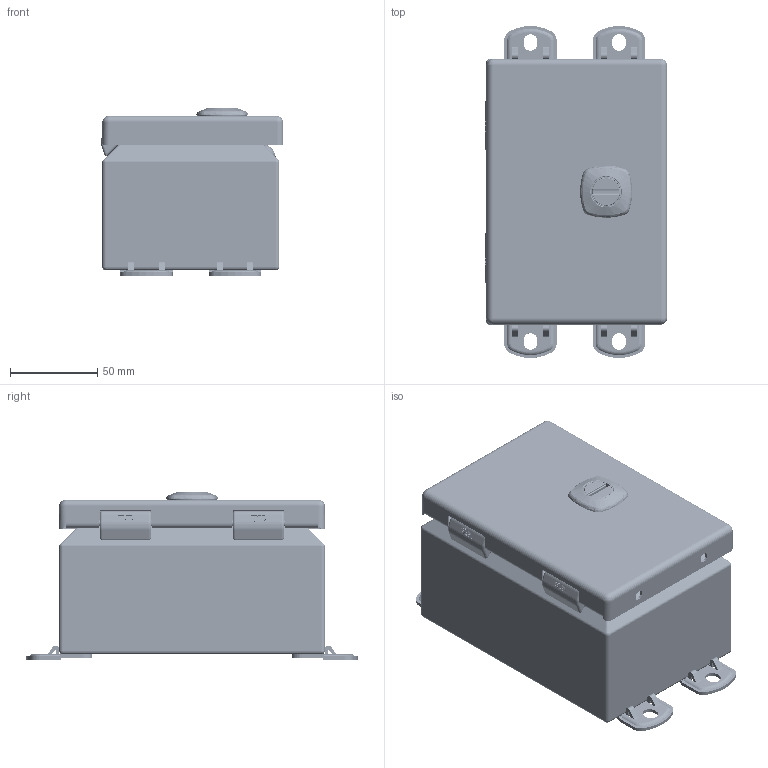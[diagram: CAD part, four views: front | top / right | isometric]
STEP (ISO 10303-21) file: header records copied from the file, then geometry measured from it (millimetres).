
FILE_DESCRIPTION(/* description */ ('5412ESM 6" x 4" x 3" Assembly'),/* implementation_level */ '2;1');
FILE_NAME(/* name */ 'C:\Vault_Workspace\Inventor_Dwg\BoxCad\Result\5412ESM060403\e-mail\3D\5412ESM060403.stp',/* time_stamp */ '2023-02-12T23:19:41-05:00',/* author */ ('BoxCad'),/* organization */ (''),/* preprocessor_version */ 'ST-DEVELOPER v18.1',/* originating_system */ 'Autodesk Inventor 2020',/* authorisation */ '');
FILE_SCHEMA (('AUTOMOTIVE_DESIGN { 1 0 10303 214 3 1 1 }'));
Products named in the file (38): 5412ESM060403; 5412ESM060403B; 5412ESM060403B-P; 5412ESM060403MF-P; STK-S-00100; STK-Q-00200; STK-Q-00200-P; STK-Q-00200-N; STK-Q-08112; STK-Q-08112-A; STK-Q-08112-B; STK-PEM-FH-M6-20ZI; 880SP0604G; 880SP0604G-P; STK-Q-07200; 5412ESM060403AK; 5412ESM060403C; 5412ESM060403C-P; 5412ESM060403G; STK-A-33033-1; STK-A-33033-2; STK-Q-33033-B; STK-Q-33033-S; STK-Q-33033-G; STK-P-02400S; STANDOFF_M6 x 10mm; STK-K-12500-1; STK-Q-78111; STK-Q-78120; STK-Q-78145; STK-Q-03200; STK-Q-78141; STK-Q-90390; STK-Q-78160; STK-Q-08100-3; STK-Q-08100-4; STK-Q-08100-A; STK-Q-08100-B
Assembly tree (57 placements, depth 4):
  5412ESM060403
    5412ESM060403B
      5412ESM060403B-P
      STK-P-02400S
      5412ESM060403MF-P  x4
      STK-S-00100
      STANDOFF_M6 x 10mm
      STK-Q-00200
        STK-Q-00200-P
        STK-Q-00200-N
      STK-Q-08112
        STK-Q-08112-A
        STK-Q-08112-B
      STK-PEM-FH-M6-20ZI  x4
    STK-Q-07200  x8
    880SP0604G
      880SP0604G-P
    5412ESM060403AK
    5412ESM060403C
      5412ESM060403C-P
      5412ESM060403G
      STK-A-33033-1
        STK-Q-33033-B
        STK-Q-33033-S
        STK-Q-33033-G
      STK-A-33033-2
        STK-Q-33033-B
        STK-Q-33033-S
        STK-Q-33033-G
      STK-P-02400S
      STANDOFF_M6 x 10mm
      STK-K-12500-1
        STK-Q-78111
        STK-Q-78120
        STK-Q-78145
        STK-Q-03200
        STK-Q-78141
        STK-Q-90390
        STK-Q-78160
    STK-Q-08100-3
      STK-Q-08100-A
      STK-Q-08100-B
    STK-Q-08100-4
      STK-Q-08100-A
      STK-Q-08100-B
Bounding box: 104.42 x 190.4 x 95.87 mm (x, y, z)
Volume: 173324.1 mm3; surface area: 241731.5 mm2
Topology: 46 solids, 46 shells, 6051 faces, 15649 edges, 9571 vertices
Faces by surface type: plane 2950, cylinder 1333, bspline 1109, torus 385, sphere 163, cone 111
Full cylindrical faces by diameter (mm): 0.762 x2, 0.9 x2, 3 x2, 3.175 x2, 3.25 x2, 4.2 x2, 4.4 x6, 4.45 x2, 4.6 x5, 4.9 x24, 5 x4, 5.01 x32, 5.1 x21, 5.4 x1, 5.9 x12, 5.994 x4, 6 x10, 6.1 x2, 7.62 x2, 7.8 x1, 8.128 x4, 9.6 x1, 10 x3, 12.8 x1, 13 x1, 15.9 x1, 16 x1, 25 x2, 29 x2
Entity records: 121061 total; most frequent: CARTESIAN_POINT 44705, ORIENTED_EDGE 16264, DIRECTION 14607, EDGE_CURVE 8132, AXIS2_PLACEMENT_3D 5124, VERTEX_POINT 4975, LINE 4359, VECTOR 4359
